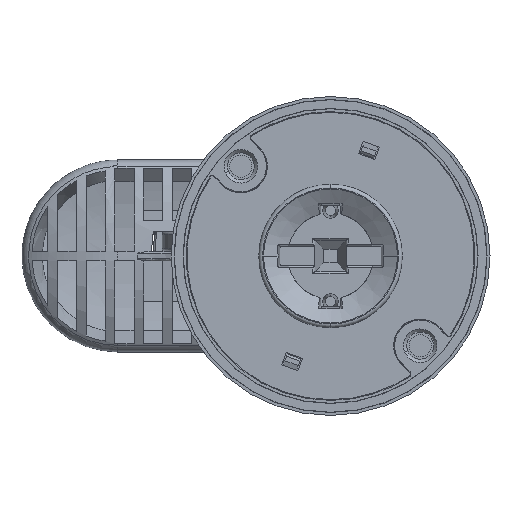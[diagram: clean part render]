
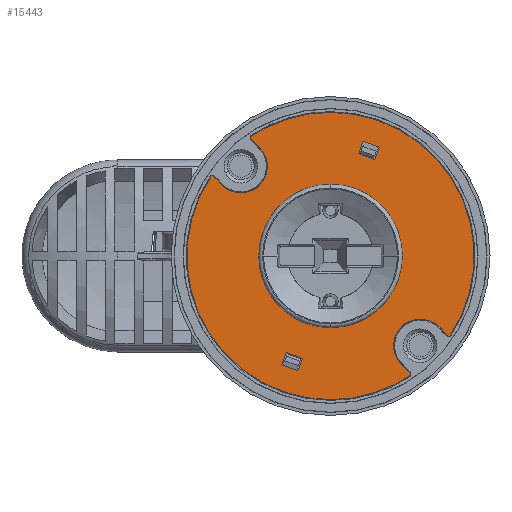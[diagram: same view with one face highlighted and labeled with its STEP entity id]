
A CAD part, front view. The second image highlights one B-rep face of the part: STEP entity #15443.
In plain terms, the highlighted planar face has unit normal (0, -1, 0).
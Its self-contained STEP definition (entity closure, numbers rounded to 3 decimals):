
#12265=CARTESIAN_POINT('',(1.904,0.114,
55.174));
#12646=DIRECTION('',(0.707,0.,-0.707));
#12647=VECTOR('',#12646,2.996);
#12648=CARTESIAN_POINT('',(-8.066,0.114,49.447));
#12649=LINE('',#12648,#12647);
#12650=CARTESIAN_POINT('',(-22.872,0.114,
72.115));
#12651=DIRECTION('',(0.,1.,0.));
#12652=DIRECTION('',(0.564,0.,-0.826));
#12653=AXIS2_PLACEMENT_3D('',#12650,#12651,#12652);
#12655=CARTESIAN_POINT('',(-22.872,0.114,
72.115));
#12656=DIRECTION('',(0.,1.,0.));
#12657=DIRECTION('',(0.,0.,-1.));
#12658=AXIS2_PLACEMENT_3D('',#12655,#12656,#12657);
#12660=DIRECTION('',(0.707,0.,-0.707));
#12661=VECTOR('',#12660,2.996);
#12662=CARTESIAN_POINT('',(-47.647,0.114,
89.056));
#12663=LINE('',#12662,#12661);
#12664=CARTESIAN_POINT('',(-41.604,0.114,90.86));
#12665=DIRECTION('',(0.,-1.,0.));
#12666=DIRECTION('',(-0.707,0.,-0.707));
#12667=AXIS2_PLACEMENT_3D('',#12664,#12665,#12666);
#12669=DIRECTION('',(-0.707,0.,0.707));
#12670=VECTOR('',#12669,2.996);
#12671=CARTESIAN_POINT('',(-37.678,0.114,94.783));
#12672=LINE('',#12671,#12670);
#12673=CARTESIAN_POINT('',(-22.872,0.114,
72.115));
#12674=DIRECTION('',(0.,1.,0.));
#12675=DIRECTION('',(-0.564,0.,0.826));
#12676=AXIS2_PLACEMENT_3D('',#12673,#12674,#12675);
#12678=CARTESIAN_POINT('',(-22.872,0.114,
72.115));
#12679=DIRECTION('',(0.,1.,0.));
#12680=DIRECTION('',(0.,0.,1.));
#12681=AXIS2_PLACEMENT_3D('',#12678,#12679,#12680);
#12683=DIRECTION('',(-0.707,0.,0.707));
#12684=VECTOR('',#12683,2.996);
#12685=CARTESIAN_POINT('',(1.904,0.114,
55.174));
#12686=LINE('',#12685,#12684);
#12687=CARTESIAN_POINT('',(-4.14,0.114,53.37));
#12688=DIRECTION('',(0.,-1.,0.));
#12689=DIRECTION('',(0.707,0.,0.707));
#12690=AXIS2_PLACEMENT_3D('',#12687,#12688,#12689);
#12692=DIRECTION('',(-0.342,0.,-0.94));
#12693=VECTOR('',#12692,2.7);
#12694=CARTESIAN_POINT('',(-32.129,0.114,
51.944));
#12695=LINE('',#12694,#12693);
#12696=DIRECTION('',(0.94,0.,-0.342));
#12697=VECTOR('',#12696,3.6);
#12698=CARTESIAN_POINT('',(-33.052,0.114,
49.407));
#12699=LINE('',#12698,#12697);
#12700=DIRECTION('',(0.342,0.,0.94));
#12701=VECTOR('',#12700,2.7);
#12702=CARTESIAN_POINT('',(-29.669,0.114,
48.176));
#12703=LINE('',#12702,#12701);
#12704=DIRECTION('',(-0.94,0.,0.342));
#12705=VECTOR('',#12704,1.8);
#12706=CARTESIAN_POINT('',(-28.746,0.114,
50.713));
#12707=LINE('',#12706,#12705);
#12708=DIRECTION('',(-0.94,0.,0.342));
#12709=VECTOR('',#12708,1.8);
#12710=CARTESIAN_POINT('',(-30.437,0.114,
51.329));
#12711=LINE('',#12710,#12709);
#12712=DIRECTION('',(-0.342,0.,-0.94));
#12713=VECTOR('',#12712,2.7);
#12714=CARTESIAN_POINT('',(-16.074,0.114,
96.054));
#12715=LINE('',#12714,#12713);
#12716=DIRECTION('',(0.94,0.,-0.342));
#12717=VECTOR('',#12716,1.8);
#12718=CARTESIAN_POINT('',(-16.998,0.114,
93.517));
#12719=LINE('',#12718,#12717);
#12720=DIRECTION('',(0.94,0.,-0.342));
#12721=VECTOR('',#12720,1.8);
#12722=CARTESIAN_POINT('',(-15.306,0.114,
92.901));
#12723=LINE('',#12722,#12721);
#12724=DIRECTION('',(0.342,0.,0.94));
#12725=VECTOR('',#12724,2.7);
#12726=CARTESIAN_POINT('',(-13.615,0.114,
92.285));
#12727=LINE('',#12726,#12725);
#12728=DIRECTION('',(-0.94,0.,0.342));
#12729=VECTOR('',#12728,3.6);
#12730=CARTESIAN_POINT('',(-12.691,0.114,
94.823));
#12731=LINE('',#12730,#12729);
#12732=CARTESIAN_POINT('',(-22.872,0.114,72.115));
#12733=DIRECTION('',(0.,-1.,0.));
#12734=DIRECTION('',(0.,0.,-1.));
#12735=AXIS2_PLACEMENT_3D('',#12732,#12733,#12734);
#12737=CARTESIAN_POINT('',(-22.872,0.114,72.115));
#12738=DIRECTION('',(0.,-1.,0.));
#12739=DIRECTION('',(0.,0.,1.));
#12740=AXIS2_PLACEMENT_3D('',#12737,#12738,#12739);
#14264=VERTEX_POINT('',#12265);
#14265=CARTESIAN_POINT('',(-22.872,0.114,
102.128));
#14266=VERTEX_POINT('',#14265);
#14267=CARTESIAN_POINT('',(-39.796,0.114,
96.902));
#14268=VERTEX_POINT('',#14267);
#14386=CARTESIAN_POINT('',(-22.872,0.114,87.115));
#14387=VERTEX_POINT('',#14386);
#14388=CARTESIAN_POINT('',(-22.872,0.114,57.115));
#14389=VERTEX_POINT('',#14388);
#14390=CARTESIAN_POINT('',(-8.066,0.114,49.447));
#14391=CARTESIAN_POINT('',(-5.948,0.114,
47.328));
#14392=VERTEX_POINT('',#14390);
#14393=VERTEX_POINT('',#14391);
#14394=CARTESIAN_POINT('',(-22.872,0.114,
42.101));
#14395=VERTEX_POINT('',#14394);
#14396=CARTESIAN_POINT('',(-47.647,0.114,
89.056));
#14397=VERTEX_POINT('',#14396);
#14398=CARTESIAN_POINT('',(-45.529,0.114,86.937));
#14399=VERTEX_POINT('',#14398);
#14400=CARTESIAN_POINT('',(-37.678,0.114,94.783));
#14401=VERTEX_POINT('',#14400);
#14402=CARTESIAN_POINT('',(-0.214,0.114,57.293));
#14403=VERTEX_POINT('',#14402);
#14404=CARTESIAN_POINT('',(-32.129,0.114,
51.944));
#14405=CARTESIAN_POINT('',(-33.052,0.114,
49.407));
#14406=VERTEX_POINT('',#14404);
#14407=VERTEX_POINT('',#14405);
#14408=CARTESIAN_POINT('',(-29.669,0.114,
48.176));
#14409=VERTEX_POINT('',#14408);
#14410=CARTESIAN_POINT('',(-28.746,0.114,
50.713));
#14411=VERTEX_POINT('',#14410);
#14412=CARTESIAN_POINT('',(-30.437,0.114,
51.329));
#14413=VERTEX_POINT('',#14412);
#14414=CARTESIAN_POINT('',(-16.074,0.114,
96.054));
#14415=CARTESIAN_POINT('',(-16.998,0.114,
93.517));
#14416=VERTEX_POINT('',#14414);
#14417=VERTEX_POINT('',#14415);
#14418=CARTESIAN_POINT('',(-15.306,0.114,
92.901));
#14419=VERTEX_POINT('',#14418);
#14420=CARTESIAN_POINT('',(-13.615,0.114,
92.285));
#14421=VERTEX_POINT('',#14420);
#14422=CARTESIAN_POINT('',(-12.691,0.114,
94.823));
#14423=VERTEX_POINT('',#14422);
#15390=CARTESIAN_POINT('',(-22.872,0.114,72.115));
#15391=DIRECTION('',(0.,1.,0.));
#15392=DIRECTION('',(0.,0.,1.));
#15393=AXIS2_PLACEMENT_3D('',#15390,#15391,#15392);
#15394=PLANE('',#15393);
#15396=ORIENTED_EDGE('',*,*,#15395,.T.);
#15398=ORIENTED_EDGE('',*,*,#15397,.T.);
#15400=ORIENTED_EDGE('',*,*,#15399,.T.);
#15402=ORIENTED_EDGE('',*,*,#15401,.T.);
#15404=ORIENTED_EDGE('',*,*,#15403,.T.);
#15406=ORIENTED_EDGE('',*,*,#15405,.T.);
#15407=ORIENTED_EDGE('',*,*,#14910,.T.);
#15408=ORIENTED_EDGE('',*,*,#14908,.T.);
#15410=ORIENTED_EDGE('',*,*,#15409,.T.);
#15412=ORIENTED_EDGE('',*,*,#15411,.T.);
#15413=EDGE_LOOP('',(#15396,#15398,#15400,#15402,#15404,#15406,#15407,#15408,
#15410,#15412));
#15414=FACE_OUTER_BOUND('',#15413,.F.);
#15416=ORIENTED_EDGE('',*,*,#15415,.T.);
#15418=ORIENTED_EDGE('',*,*,#15417,.T.);
#15420=ORIENTED_EDGE('',*,*,#15419,.T.);
#15422=ORIENTED_EDGE('',*,*,#15421,.T.);
#15424=ORIENTED_EDGE('',*,*,#15423,.T.);
#15425=EDGE_LOOP('',(#15416,#15418,#15420,#15422,#15424));
#15426=FACE_BOUND('',#15425,.F.);
#15428=ORIENTED_EDGE('',*,*,#15427,.T.);
#15430=ORIENTED_EDGE('',*,*,#15429,.T.);
#15432=ORIENTED_EDGE('',*,*,#15431,.T.);
#15434=ORIENTED_EDGE('',*,*,#15433,.T.);
#15436=ORIENTED_EDGE('',*,*,#15435,.T.);
#15437=EDGE_LOOP('',(#15428,#15430,#15432,#15434,#15436));
#15438=FACE_BOUND('',#15437,.F.);
#15439=ORIENTED_EDGE('',*,*,#15370,.T.);
#15440=ORIENTED_EDGE('',*,*,#15384,.T.);
#15441=EDGE_LOOP('',(#15439,#15440));
#15442=FACE_BOUND('',#15441,.F.);
#15443=ADVANCED_FACE('',(#15414,#15426,#15438,#15442),#15394,.F.);
#12654=CIRCLE('',#12653,30.014);
#12659=CIRCLE('',#12658,30.014);
#12668=CIRCLE('',#12667,5.55);
#12677=CIRCLE('',#12676,30.014);
#12682=CIRCLE('',#12681,30.014);
#12691=CIRCLE('',#12690,5.55);
#12736=CIRCLE('',#12735,15.);
#12741=CIRCLE('',#12740,15.);
#14908=EDGE_CURVE('',#14266,#14264,#12682,.T.);
#14910=EDGE_CURVE('',#14268,#14266,#12677,.T.);
#15370=EDGE_CURVE('',#14389,#14387,#12736,.T.);
#15384=EDGE_CURVE('',#14387,#14389,#12741,.T.);
#15395=EDGE_CURVE('',#14392,#14393,#12649,.T.);
#15397=EDGE_CURVE('',#14393,#14395,#12654,.T.);
#15399=EDGE_CURVE('',#14395,#14397,#12659,.T.);
#15401=EDGE_CURVE('',#14397,#14399,#12663,.T.);
#15403=EDGE_CURVE('',#14399,#14401,#12668,.T.);
#15405=EDGE_CURVE('',#14401,#14268,#12672,.T.);
#15409=EDGE_CURVE('',#14264,#14403,#12686,.T.);
#15411=EDGE_CURVE('',#14403,#14392,#12691,.T.);
#15415=EDGE_CURVE('',#14406,#14407,#12695,.T.);
#15417=EDGE_CURVE('',#14407,#14409,#12699,.T.);
#15419=EDGE_CURVE('',#14409,#14411,#12703,.T.);
#15421=EDGE_CURVE('',#14411,#14413,#12707,.T.);
#15423=EDGE_CURVE('',#14413,#14406,#12711,.T.);
#15427=EDGE_CURVE('',#14416,#14417,#12715,.T.);
#15429=EDGE_CURVE('',#14417,#14419,#12719,.T.);
#15431=EDGE_CURVE('',#14419,#14421,#12723,.T.);
#15433=EDGE_CURVE('',#14421,#14423,#12727,.T.);
#15435=EDGE_CURVE('',#14423,#14416,#12731,.T.);
